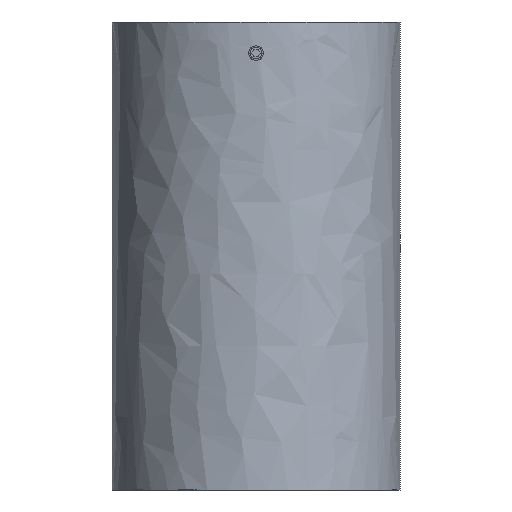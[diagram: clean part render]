
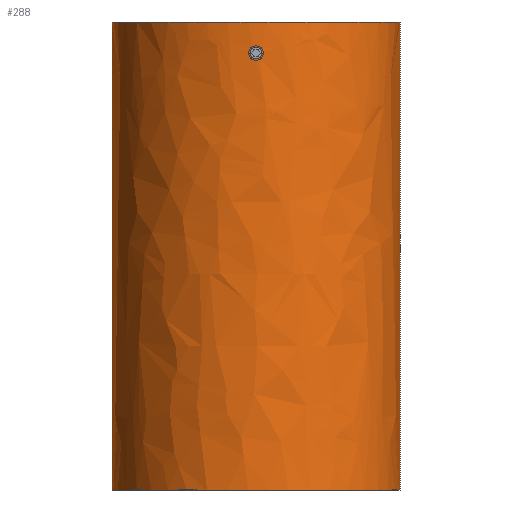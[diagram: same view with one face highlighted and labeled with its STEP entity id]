
A CAD part, left-side view. The second image highlights one B-rep face of the part: STEP entity #288.
In plain terms, the highlighted free-form (B-spline) face has degree [2, 1] with [5, 2] control points.
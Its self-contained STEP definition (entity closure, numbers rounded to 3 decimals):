
#43=FACE_BOUND('',#439,.T.);
#288=ADVANCED_FACE('',(#362,#43),#1752,.T.);
#362=FACE_OUTER_BOUND('',#438,.T.);
#438=EDGE_LOOP('',(#579,#580,#581,#582));
#439=EDGE_LOOP('',(#583,#584));
#579=ORIENTED_EDGE('',*,*,#901,.F.);
#580=ORIENTED_EDGE('',*,*,#905,.F.);
#581=ORIENTED_EDGE('',*,*,#906,.T.);
#582=ORIENTED_EDGE('',*,*,#903,.F.);
#583=ORIENTED_EDGE('',*,*,#919,.T.);
#584=ORIENTED_EDGE('',*,*,#920,.T.);
#901=EDGE_CURVE('',#1513,#1514,#1307,.T.);
#903=EDGE_CURVE('',#1514,#1515,#1189,.T.);
#905=EDGE_CURVE('',#1516,#1513,#1190,.T.);
#906=EDGE_CURVE('',#1516,#1515,#1310,.T.);
#919=EDGE_CURVE('',#1521,#1522,#1199,.T.);
#920=EDGE_CURVE('',#1522,#1521,#1200,.T.);
#1189=B_SPLINE_CURVE_WITH_KNOTS('',1,(#2540,#2541),.UNSPECIFIED.,.F.,.F.,
(2,2),(0.,130.),.UNSPECIFIED.);
#1190=B_SPLINE_CURVE_WITH_KNOTS('',1,(#2547,#2548),.UNSPECIFIED.,.F.,.F.,
(2,2),(-130.,0.),.UNSPECIFIED.);
#1199=B_SPLINE_CURVE_WITH_KNOTS('',3,(#2628,#2629,#2630,#2631,#2632,#2633,
#2634,#2635,#2636,#2637,#2638,#2639,#2640,#2641,#2642,#2643,#2644,#2645,
#2646,#2647,#2648),.UNSPECIFIED.,.F.,.F.,(4,2,3,2,3,2,3,2,4),(0.053,
0.67,1.34,1.994,2.647,3.3,
3.954,4.624,5.241),.UNSPECIFIED.);
#1200=B_SPLINE_CURVE_WITH_KNOTS('',3,(#2649,#2650,#2651,#2652,#2653,#2654,
#2655,#2656,#2657,#2658,#2659,#2660,#2661,#2662,#2663,#2664,#2665,#2666,
#2667,#2668,#2669),.UNSPECIFIED.,.F.,.F.,(4,2,3,2,3,2,3,2,4),(0.053,
0.67,1.34,1.994,2.647,3.3,
3.954,4.624,5.241),.UNSPECIFIED.);
#1307=(
BOUNDED_CURVE()
B_SPLINE_CURVE(2,(#2530,#2531,#2532,#2533,#2534),.UNSPECIFIED.,.F.,.F.)
B_SPLINE_CURVE_WITH_KNOTS((3,2,3),(0.,62.832,125.664),
 .UNSPECIFIED.)
CURVE()
GEOMETRIC_REPRESENTATION_ITEM()
RATIONAL_B_SPLINE_CURVE((1.,0.707,1.,0.707,1.))
REPRESENTATION_ITEM('')
);
#1310=(
BOUNDED_CURVE()
B_SPLINE_CURVE(2,(#2549,#2550,#2551,#2552,#2553),.UNSPECIFIED.,.F.,.F.)
B_SPLINE_CURVE_WITH_KNOTS((3,2,3),(0.,62.832,125.664),
 .UNSPECIFIED.)
CURVE()
GEOMETRIC_REPRESENTATION_ITEM()
RATIONAL_B_SPLINE_CURVE((1.,0.707,1.,0.707,1.))
REPRESENTATION_ITEM('')
);
#1513=VERTEX_POINT('',#2508);
#1514=VERTEX_POINT('',#2509);
#1515=VERTEX_POINT('',#2510);
#1516=VERTEX_POINT('',#2511);
#1521=VERTEX_POINT('',#2516);
#1522=VERTEX_POINT('',#2517);
#1752=(
BOUNDED_SURFACE()
B_SPLINE_SURFACE(2,1,((#2403,#2404),(#2405,#2406),(#2407,#2408),(#2409,
#2410),(#2411,#2412)),.UNSPECIFIED.,.F.,.F.,.F.)
B_SPLINE_SURFACE_WITH_KNOTS((3,2,3),(2,2),(-125.664,-62.832,
0.),(0.,130.),.UNSPECIFIED.)
GEOMETRIC_REPRESENTATION_ITEM()
RATIONAL_B_SPLINE_SURFACE(((1.,1.),(0.707,0.707),
(1.,1.),(0.707,0.707),(1.,1.)))
REPRESENTATION_ITEM('')
SURFACE()
);
#2403=CARTESIAN_POINT('',(0.,25.,65.));
#2404=CARTESIAN_POINT('',(0.,25.,-65.));
#2405=CARTESIAN_POINT('',(-40.,25.,65.));
#2406=CARTESIAN_POINT('',(-40.,25.,-65.));
#2407=CARTESIAN_POINT('',(-40.,65.,65.));
#2408=CARTESIAN_POINT('',(-40.,65.,-65.));
#2409=CARTESIAN_POINT('',(-40.,105.,65.));
#2410=CARTESIAN_POINT('',(-40.,105.,-65.));
#2411=CARTESIAN_POINT('',(0.,105.,65.));
#2412=CARTESIAN_POINT('',(0.,105.,-65.));
#2508=CARTESIAN_POINT('',(0.,105.,65.));
#2509=CARTESIAN_POINT('',(0.,25.,65.));
#2510=CARTESIAN_POINT('',(0.,25.,-65.));
#2511=CARTESIAN_POINT('',(0.,105.,-65.));
#2516=CARTESIAN_POINT('',(-39.965,66.67,56.35));
#2517=CARTESIAN_POINT('',(-39.965,63.33,56.35));
#2530=CARTESIAN_POINT('',(0.,105.,65.));
#2531=CARTESIAN_POINT('',(-40.,105.,65.));
#2532=CARTESIAN_POINT('',(-40.,65.,65.));
#2533=CARTESIAN_POINT('',(-40.,25.,65.));
#2534=CARTESIAN_POINT('',(0.,25.,65.));
#2540=CARTESIAN_POINT('',(0.,25.,65.));
#2541=CARTESIAN_POINT('',(0.,25.,-65.));
#2547=CARTESIAN_POINT('',(0.,105.,-65.));
#2548=CARTESIAN_POINT('',(0.,105.,65.));
#2549=CARTESIAN_POINT('',(0.,105.,-65.));
#2550=CARTESIAN_POINT('',(-40.,105.,-65.));
#2551=CARTESIAN_POINT('',(-40.,65.,-65.));
#2552=CARTESIAN_POINT('',(-40.,25.,-65.));
#2553=CARTESIAN_POINT('',(0.,25.,-65.));
#2628=CARTESIAN_POINT('',(-39.965,66.67,56.35));
#2629=CARTESIAN_POINT('',(-39.965,66.67,56.555));
#2630=CARTESIAN_POINT('',(-39.967,66.63,56.757));
#2631=CARTESIAN_POINT('',(-39.973,66.466,57.153));
#2632=CARTESIAN_POINT('',(-39.978,66.338,57.337));
#2633=CARTESIAN_POINT('',(-39.983,66.178,57.491));
#2634=CARTESIAN_POINT('',(-39.987,66.021,57.642));
#2635=CARTESIAN_POINT('',(-39.992,65.836,57.759));
#2636=CARTESIAN_POINT('',(-39.998,65.432,57.919));
#2637=CARTESIAN_POINT('',(-40.,65.217,57.96));
#2638=CARTESIAN_POINT('',(-40.,65.,57.96));
#2639=CARTESIAN_POINT('',(-40.,64.783,57.96));
#2640=CARTESIAN_POINT('',(-39.998,64.568,57.919));
#2641=CARTESIAN_POINT('',(-39.992,64.164,57.759));
#2642=CARTESIAN_POINT('',(-39.987,63.979,57.642));
#2643=CARTESIAN_POINT('',(-39.983,63.822,57.491));
#2644=CARTESIAN_POINT('',(-39.978,63.662,57.337));
#2645=CARTESIAN_POINT('',(-39.973,63.534,57.153));
#2646=CARTESIAN_POINT('',(-39.967,63.37,56.757));
#2647=CARTESIAN_POINT('',(-39.965,63.33,56.555));
#2648=CARTESIAN_POINT('',(-39.965,63.33,56.35));
#2649=CARTESIAN_POINT('',(-39.965,63.33,56.35));
#2650=CARTESIAN_POINT('',(-39.965,63.33,56.145));
#2651=CARTESIAN_POINT('',(-39.967,63.37,55.943));
#2652=CARTESIAN_POINT('',(-39.973,63.534,55.547));
#2653=CARTESIAN_POINT('',(-39.978,63.662,55.363));
#2654=CARTESIAN_POINT('',(-39.983,63.822,55.209));
#2655=CARTESIAN_POINT('',(-39.987,63.979,55.058));
#2656=CARTESIAN_POINT('',(-39.992,64.164,54.941));
#2657=CARTESIAN_POINT('',(-39.998,64.568,54.781));
#2658=CARTESIAN_POINT('',(-40.,64.783,54.74));
#2659=CARTESIAN_POINT('',(-40.,65.,54.74));
#2660=CARTESIAN_POINT('',(-40.,65.217,54.74));
#2661=CARTESIAN_POINT('',(-39.998,65.432,54.781));
#2662=CARTESIAN_POINT('',(-39.992,65.836,54.941));
#2663=CARTESIAN_POINT('',(-39.987,66.021,55.058));
#2664=CARTESIAN_POINT('',(-39.983,66.178,55.209));
#2665=CARTESIAN_POINT('',(-39.978,66.338,55.363));
#2666=CARTESIAN_POINT('',(-39.973,66.466,55.547));
#2667=CARTESIAN_POINT('',(-39.967,66.63,55.943));
#2668=CARTESIAN_POINT('',(-39.965,66.67,56.145));
#2669=CARTESIAN_POINT('',(-39.965,66.67,56.35));
